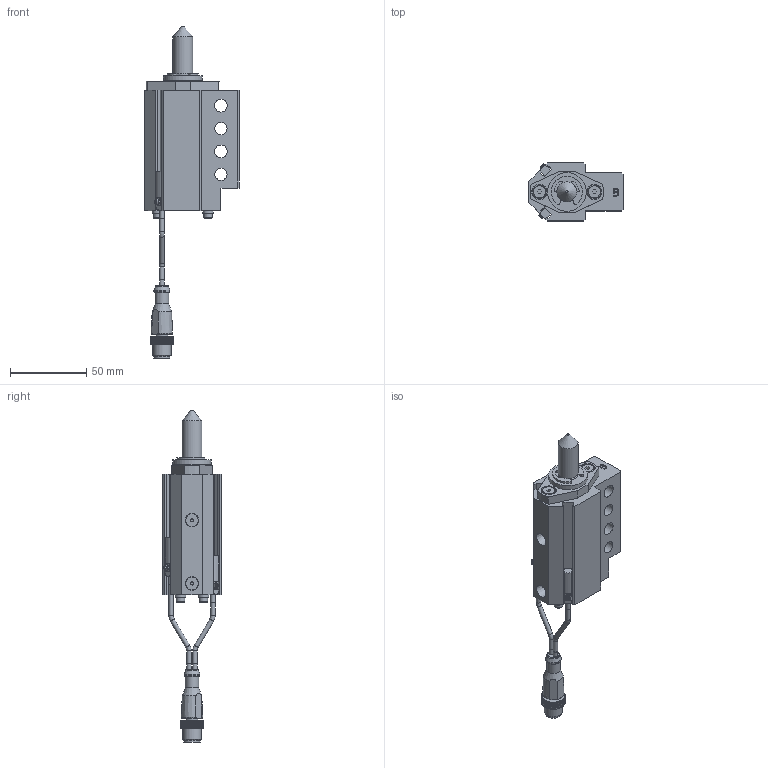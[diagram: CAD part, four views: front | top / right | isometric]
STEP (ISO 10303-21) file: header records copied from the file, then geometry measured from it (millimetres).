
FILE_DESCRIPTION(/* description */ ('NAAMS FLOATING MICRO PIN'),/* implementation_level */ '2;1');
FILE_NAME(/* name */ 'C:\Vault Workspace\CAD\Welker\Shot Pin\NMP\NMP130022ABNL3.stp',/* time_stamp */ '2021-01-27T10:57:59-05:00',/* author */ ('WELKER'),/* organization */ (''),/* preprocessor_version */ 'ST-DEVELOPER v18.1',/* originating_system */ 'Autodesk Inventor 2020',/* authorisation */ '');
FILE_SCHEMA (('AUTOMOTIVE_DESIGN { 1 0 10303 214 3 1 1 }'));
Length unit declared in the file: millimetre
Products named in the file (16): NMPL01; NMP L3 SWITCH; L3 Connector; L3 Sensor 1; L3 Sensor 2; L3 Sensor cable; L3 Sensor cable 2; M3X0.5-8 SHCS; NL3; NMPE06; NMPE03; NMPE05-DIA-LENGTH; 985432A218; NMPE01B-PORT; RMPE02; M5X5 SHOULDER
Assembly tree (22 placements, depth 3):
  NMPL01
    NMP L3 SWITCH
      L3 Connector
      L3 Sensor 1
      L3 Sensor 2
      L3 Sensor cable
      L3 Sensor cable 2
    M3X0.5-8 SHCS  x4
    NL3  x4
    NMPE06
    NMPE03
    NMPE05-DIA-LENGTH
    985432A218
    NMPE01B-PORT
    RMPE02
    M5X5 SHOULDER  x2
Bounding box: 62 x 38.1 x 217.71 mm (x, y, z)
Volume: 113075.5 mm3; surface area: 45779.1 mm2
Topology: 21 solids, 21 shells, 756 faces, 2047 edges, 1368 vertices
Faces by surface type: plane 552, cylinder 143, cone 31, bspline 16, torus 11, sphere 3
Full cylindrical faces by diameter (mm): 2 x2, 2.459 x4, 2.9 x10, 3 x5, 3.242 x2, 3.4 x4, 4 x2, 5 x6, 5.5 x4, 7 x4, 8 x2, 8.3 x2, 8.376 x2, 9 x3, 10 x3, 10.4 x1, 10.5 x1, 12 x1, 13 x3, 16 x2, 19.05 x3, 21 x1, 22.5 x1, 23.672 x1, 24 x1, 25.4 x1, 25.5 x1, 26.5 x1, 28.677 x1, 29.21 x1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
Entity records: 23136 total; most frequent: CARTESIAN_POINT 4356, ORIENTED_EDGE 3792, DIRECTION 3714, EDGE_CURVE 1896, LINE 1392, VECTOR 1392, VERTEX_POINT 1273, AXIS2_PLACEMENT_3D 1161
